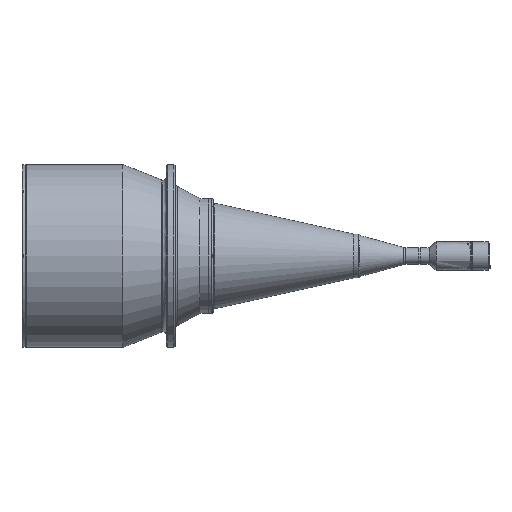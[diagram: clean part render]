
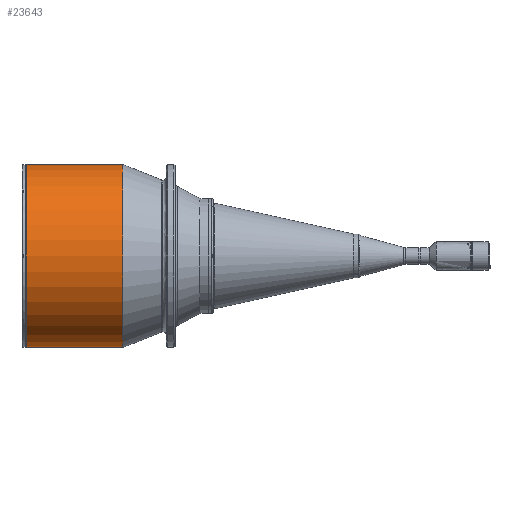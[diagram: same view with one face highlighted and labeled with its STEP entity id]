
A CAD part, front view. The second image highlights one B-rep face of the part: STEP entity #23643.
In plain terms, the highlighted face is a revolution surface.
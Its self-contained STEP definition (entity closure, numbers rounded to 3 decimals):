
#23643 = ADVANCED_FACE('',(#23644),#23659,.T.);
#23644 = FACE_BOUND('',#23645,.T.);
#23645 = EDGE_LOOP('',(#23646,#23672,#23687,#23703));
#23646 = ORIENTED_EDGE('',*,*,#23647,.F.);
#23647 = EDGE_CURVE('',#23648,#23650,#23652,.T.);
#23648 = VERTEX_POINT('',#23649);
#23649 = CARTESIAN_POINT('',(-887.579,0.,208.5));
#23650 = VERTEX_POINT('',#23651);
#23651 = CARTESIAN_POINT('',(-887.579,0.,-208.5));
#23652 = SURFACE_CURVE('',#23653,(#23658),.PCURVE_S1.);
#23653 = CIRCLE('',#23654,208.5);
#23654 = AXIS2_PLACEMENT_3D('',#23655,#23656,#23657);
#23655 = CARTESIAN_POINT('',(-887.579,0.,0.));
#23656 = DIRECTION('',(1.,0.,0.));
#23657 = DIRECTION('',(0.,0.,1.));
#23658 = PCURVE('',#23659,#23667);
#23659 = SURFACE_OF_REVOLUTION('',#23660,#23664);
#23660 = LINE('',#23661,#23662);
#23661 = CARTESIAN_POINT('',(-667.579,0.,208.5));
#23662 = VECTOR('',#23663,1.);
#23663 = DIRECTION('',(-1.,0.,0.));
#23664 = AXIS1_PLACEMENT('',#23665,#23666);
#23665 = CARTESIAN_POINT('',(-908.395,0.,0.));
#23666 = DIRECTION('',(1.,0.,0.));
#23667 = DEFINITIONAL_REPRESENTATION('',(#23668),#23671);
#23668 = B_SPLINE_CURVE_WITH_KNOTS('',1,(#23669,#23670),.UNSPECIFIED.,
  .F.,.F.,(2,2),(0.,3.142),.PIECEWISE_BEZIER_KNOTS.);
#23669 = CARTESIAN_POINT('',(0.,220.));
#23670 = CARTESIAN_POINT('',(3.142,220.));
#23671 = ( GEOMETRIC_REPRESENTATION_CONTEXT(2) 
PARAMETRIC_REPRESENTATION_CONTEXT() REPRESENTATION_CONTEXT('',''
  ) );
#23672 = ORIENTED_EDGE('',*,*,#23673,.F.);
#23673 = EDGE_CURVE('',#23674,#23648,#23676,.T.);
#23674 = VERTEX_POINT('',#23675);
#23675 = CARTESIAN_POINT('',(-667.579,0.,208.5));
#23676 = SURFACE_CURVE('',#23677,(#23681),.PCURVE_S1.);
#23677 = LINE('',#23678,#23679);
#23678 = CARTESIAN_POINT('',(-667.579,0.,208.5));
#23679 = VECTOR('',#23680,1.);
#23680 = DIRECTION('',(-1.,0.,0.));
#23681 = PCURVE('',#23659,#23682);
#23682 = DEFINITIONAL_REPRESENTATION('',(#23683),#23686);
#23683 = B_SPLINE_CURVE_WITH_KNOTS('',1,(#23684,#23685),.UNSPECIFIED.,
  .F.,.F.,(2,2),(0.,220.),.PIECEWISE_BEZIER_KNOTS.);
#23684 = CARTESIAN_POINT('',(0.,0.));
#23685 = CARTESIAN_POINT('',(0.,220.));
#23686 = ( GEOMETRIC_REPRESENTATION_CONTEXT(2) 
PARAMETRIC_REPRESENTATION_CONTEXT() REPRESENTATION_CONTEXT('',''
  ) );
#23687 = ORIENTED_EDGE('',*,*,#23688,.F.);
#23688 = EDGE_CURVE('',#23689,#23674,#23691,.T.);
#23689 = VERTEX_POINT('',#23690);
#23690 = CARTESIAN_POINT('',(-667.579,0.,-208.5));
#23691 = SURFACE_CURVE('',#23692,(#23697),.PCURVE_S1.);
#23692 = CIRCLE('',#23693,208.5);
#23693 = AXIS2_PLACEMENT_3D('',#23694,#23695,#23696);
#23694 = CARTESIAN_POINT('',(-667.579,0.,0.));
#23695 = DIRECTION('',(-1.,0.,0.));
#23696 = DIRECTION('',(0.,0.,-1.));
#23697 = PCURVE('',#23659,#23698);
#23698 = DEFINITIONAL_REPRESENTATION('',(#23699),#23702);
#23699 = B_SPLINE_CURVE_WITH_KNOTS('',1,(#23700,#23701),.UNSPECIFIED.,
  .F.,.F.,(2,2),(0.,3.142),.PIECEWISE_BEZIER_KNOTS.);
#23700 = CARTESIAN_POINT('',(3.142,0.));
#23701 = CARTESIAN_POINT('',(0.,0.));
#23702 = ( GEOMETRIC_REPRESENTATION_CONTEXT(2) 
PARAMETRIC_REPRESENTATION_CONTEXT() REPRESENTATION_CONTEXT('',''
  ) );
#23703 = ORIENTED_EDGE('',*,*,#23704,.F.);
#23704 = EDGE_CURVE('',#23650,#23689,#23705,.T.);
#23705 = SURFACE_CURVE('',#23706,(#23710),.PCURVE_S1.);
#23706 = LINE('',#23707,#23708);
#23707 = CARTESIAN_POINT('',(-887.579,0.,-208.5));
#23708 = VECTOR('',#23709,1.);
#23709 = DIRECTION('',(1.,0.,0.));
#23710 = PCURVE('',#23659,#23711);
#23711 = DEFINITIONAL_REPRESENTATION('',(#23712),#23715);
#23712 = B_SPLINE_CURVE_WITH_KNOTS('',1,(#23713,#23714),.UNSPECIFIED.,
  .F.,.F.,(2,2),(0.,220.),.PIECEWISE_BEZIER_KNOTS.);
#23713 = CARTESIAN_POINT('',(3.142,220.));
#23714 = CARTESIAN_POINT('',(3.142,0.));
#23715 = ( GEOMETRIC_REPRESENTATION_CONTEXT(2) 
PARAMETRIC_REPRESENTATION_CONTEXT() REPRESENTATION_CONTEXT('',''
  ) );
